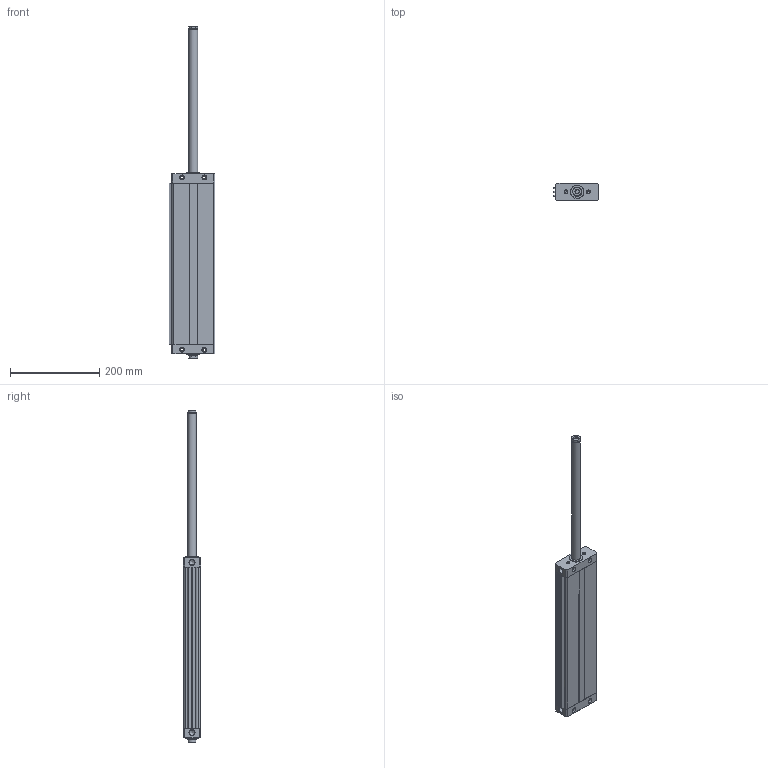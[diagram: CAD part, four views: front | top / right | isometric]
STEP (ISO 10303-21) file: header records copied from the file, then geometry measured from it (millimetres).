
FILE_DESCRIPTION((''),'2;1');
FILE_NAME('I:\Area Tecnica\Disegni\VARIE-3D\Componenti\1370 - CPO\1370_##_0000_03\1370_50_0320_03-01.iam.step','2010-12-16T11:00:27',(''),(''),'Autodesk Inventor 2011','Autodesk Inventor 2011','');
FILE_SCHEMA(('AUTOMOTIVE_DESIGN { 1 0 10303 214 1 1 1 1 }'));
Length unit declared in the file: millimetre
Products named in the file (5): 1370_50_0320_03-01; 1370_05_50_0000; 1370_06_50_0320; 1370_08_50_0000; 1370_3_50_0320
Assembly tree (4 placements, depth 2):
  1370_50_0320_03-01
    1370_05_50_0000
    1370_06_50_0320
    1370_08_50_0000
    1370_3_50_0320
Bounding box: 102.5 x 38 x 742 mm (x, y, z)
Volume: 988182.7 mm3; surface area: 273959.6 mm2
Topology: 4 solids, 4 shells, 164 faces, 398 edges, 252 vertices
Faces by surface type: plane 94, cylinder 50, cone 20
Full cylindrical faces by diameter (mm): 6.8 x18, 8.5 x2, 10.3 x2, 11 x8, 11.75 x2, 20 x4, 30 x2
Entity records: 4722 total; most frequent: DIRECTION 794, CARTESIAN_POINT 737, ORIENTED_EDGE 652, EDGE_CURVE 326, AXIS2_PLACEMENT_3D 295, EDGE_LOOP 254, VERTEX_POINT 238, VECTOR 204
